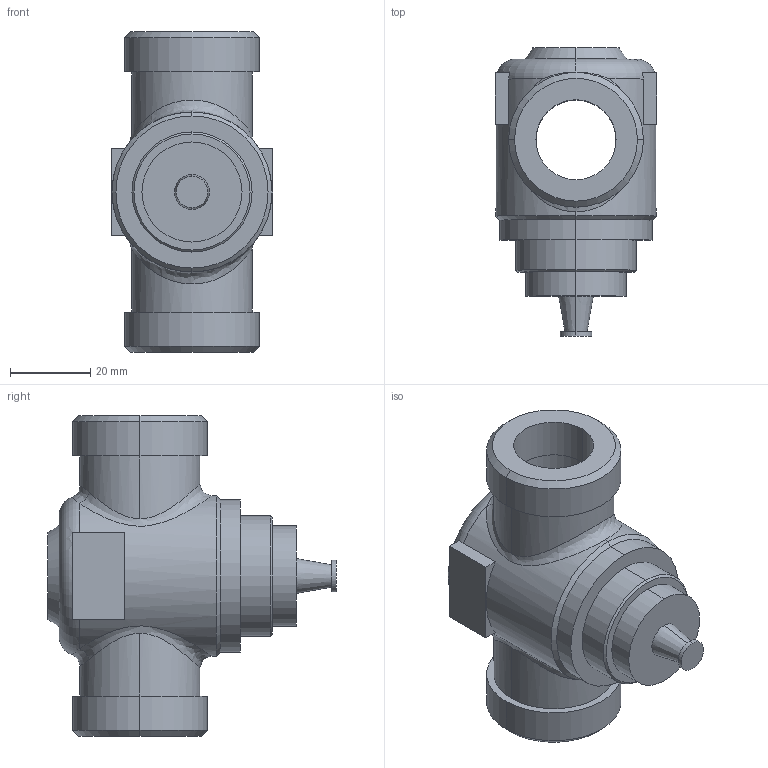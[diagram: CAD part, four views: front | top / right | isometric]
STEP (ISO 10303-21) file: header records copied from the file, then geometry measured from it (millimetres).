
FILE_DESCRIPTION((''),'2;1');
FILE_NAME('000432.dwg.stp','2006-10-04T11:29:47',(''),(''),'Mechanical Desktop 2006','Mechanical Desktop 2006',', , ');
FILE_SCHEMA(('AUTOMOTIVE_DESIGN { 1 2 10303 214 0 1 1 1 }'));
Length unit declared in the file: millimetre
Products named in the file (1): Product
Bounding box: 40.27 x 72 x 80 mm (x, y, z)
Volume: 75311 mm3; surface area: 23071.9 mm2
Topology: 7 solids, 7 shells, 69 faces, 152 edges, 98 vertices
Faces by surface type: plane 24, cylinder 22, cone 12, bspline 9, torus 2
Entity records: 2951 total; most frequent: CARTESIAN_POINT 1372, DIRECTION 322, ORIENTED_EDGE 304, EDGE_CURVE 152, AXIS2_PLACEMENT_3D 133, VERTEX_POINT 98, EDGE_LOOP 76, CIRCLE 72
